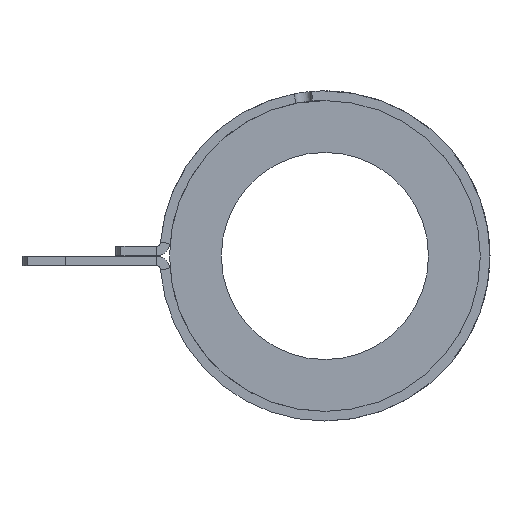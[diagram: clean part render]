
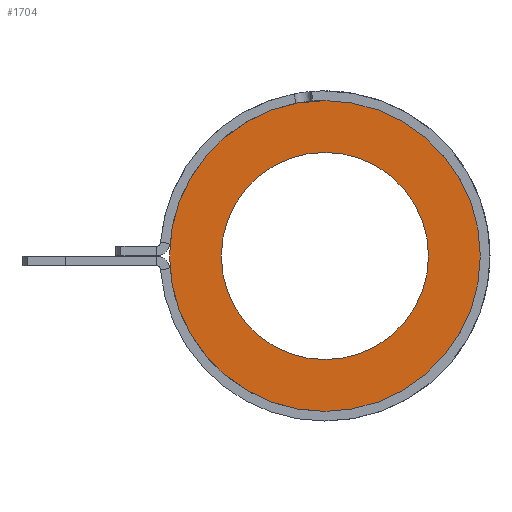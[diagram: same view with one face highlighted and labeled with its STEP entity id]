
A CAD part, left-side view. The second image highlights one B-rep face of the part: STEP entity #1704.
In plain terms, the highlighted planar face has unit normal (-1, 0, 0).
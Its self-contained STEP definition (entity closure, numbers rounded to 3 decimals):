
#60 = VERTEX_POINT ( 'NONE', #1070 ) ;
#70 = VERTEX_POINT ( 'NONE', #1060 ) ;
#76 = VERTEX_POINT ( 'NONE', #1044 ) ;
#79 = VERTEX_POINT ( 'NONE', #1047 ) ;
#114 = EDGE_LOOP ( 'NONE', ( #697, #698 ) ) ;
#115 = EDGE_LOOP ( 'NONE', ( #695, #696 ) ) ;
#156 = CIRCLE ( 'NONE', #555, 9.525 ) ;
#157 = CIRCLE ( 'NONE', #556, 14.288 ) ;
#169 = CIRCLE ( 'NONE', #550, 14.288 ) ;
#300 = CIRCLE ( 'NONE', #504, 9.525 ) ;
#396 = CARTESIAN_POINT ( 'NONE',  ( -133.35, 0., 0. ) ) ;
#397 = DIRECTION ( 'NONE',  ( 1., 0., 0. ) ) ;
#398 = DIRECTION ( 'NONE',  ( 0., 0., -1. ) ) ;
#400 = CARTESIAN_POINT ( 'NONE',  ( -133.35, 0., 0. ) ) ;
#401 = DIRECTION ( 'NONE',  ( 1., 0., 0. ) ) ;
#443 = AXIS2_PLACEMENT_3D ( 'NONE', #1381, #1384, #1385 ) ;
#450 = EDGE_CURVE ( 'NONE', #60, #79, #157, .T. ) ;
#452 = EDGE_CURVE ( 'NONE', #76, #70, #156, .T. ) ;
#467 = EDGE_CURVE ( 'NONE', #79, #60, #169, .T. ) ;
#504 = AXIS2_PLACEMENT_3D ( 'NONE', #1122, #1123, #1124 ) ;
#550 = AXIS2_PLACEMENT_3D ( 'NONE', #1411, #713, #714 ) ;
#555 = AXIS2_PLACEMENT_3D ( 'NONE', #400, #401, #1651 ) ;
#556 = AXIS2_PLACEMENT_3D ( 'NONE', #396, #397, #398 ) ;
#627 = EDGE_CURVE ( 'NONE', #70, #76, #300, .T. ) ;
#695 = ORIENTED_EDGE ( 'NONE', *, *, #450, .F. ) ;
#696 = ORIENTED_EDGE ( 'NONE', *, *, #467, .F. ) ;
#697 = ORIENTED_EDGE ( 'NONE', *, *, #627, .T. ) ;
#698 = ORIENTED_EDGE ( 'NONE', *, *, #452, .T. ) ;
#713 = DIRECTION ( 'NONE',  ( 1., 0., 0. ) ) ;
#714 = DIRECTION ( 'NONE',  ( 0., 0., -1. ) ) ;
#1044 = CARTESIAN_POINT ( 'NONE',  ( -133.35, 0., -9.525 ) ) ;
#1047 = CARTESIAN_POINT ( 'NONE',  ( -133.35, 0., -14.288 ) ) ;
#1060 = CARTESIAN_POINT ( 'NONE',  ( -133.35, 0., 9.525 ) ) ;
#1070 = CARTESIAN_POINT ( 'NONE',  ( -133.35, 0., 14.288 ) ) ;
#1122 = CARTESIAN_POINT ( 'NONE',  ( -133.35, 0., 0. ) ) ;
#1123 = DIRECTION ( 'NONE',  ( 1., 0., 0. ) ) ;
#1124 = DIRECTION ( 'NONE',  ( 0., 0., -1. ) ) ;
#1315 = FACE_OUTER_BOUND ( 'NONE', #115, .T. ) ;
#1320 = FACE_BOUND ( 'NONE', #114, .T. ) ;
#1379 = PLANE ( 'NONE',  #443 ) ;
#1381 = CARTESIAN_POINT ( 'NONE',  ( -133.35, 0., 0. ) ) ;
#1384 = DIRECTION ( 'NONE',  ( 1., 0., 0. ) ) ;
#1385 = DIRECTION ( 'NONE',  ( 0., 0., -1. ) ) ;
#1411 = CARTESIAN_POINT ( 'NONE',  ( -133.35, 0., 0. ) ) ;
#1651 = DIRECTION ( 'NONE',  ( 0., 0., -1. ) ) ;
#1704 = ADVANCED_FACE ( 'NONE', ( #1315, #1320 ), #1379, .F. ) ;
